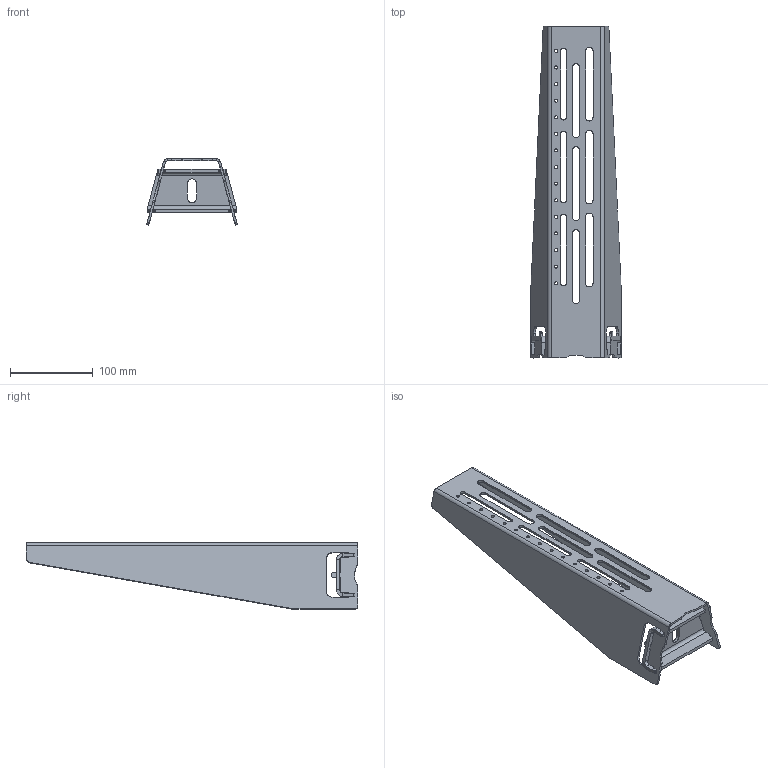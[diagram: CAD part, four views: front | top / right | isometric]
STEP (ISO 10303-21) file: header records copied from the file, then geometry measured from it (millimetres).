
FILE_DESCRIPTION (( 'STEP AP214' ), '1' );
FILE_NAME ('080043-11X11X0400.STEP', '2013-01-17T08:45:49', ( '' ), ( '' ), 'SwSTEP 2.0', 'SolidWorks 2012', '' );
FILE_SCHEMA (( 'AUTOMOTIVE_DESIGN' ));
Length unit declared in the file: millimetre
Products named in the file (3): 08-B020-6795; 08-B020-6748; 080043-11X11X0400
Assembly tree (2 placements, depth 2):
  080043-11X11X0400
    08-B020-6748
    08-B020-6795
Bounding box: 109.31 x 400 x 79.77 mm (x, y, z)
Volume: 186441.3 mm3; surface area: 150740.1 mm2
Topology: 2 solids, 2 shells, 264 faces, 748 edges, 488 vertices
Faces by surface type: cylinder 147, plane 113, bspline 4
Entity records: 10799 total; most frequent: CARTESIAN_POINT 1637, DIRECTION 1556, ORIENTED_EDGE 1496, EDGE_CURVE 748, AXIS2_PLACEMENT_3D 551, VERTEX_POINT 488, VECTOR 454, LINE 454
